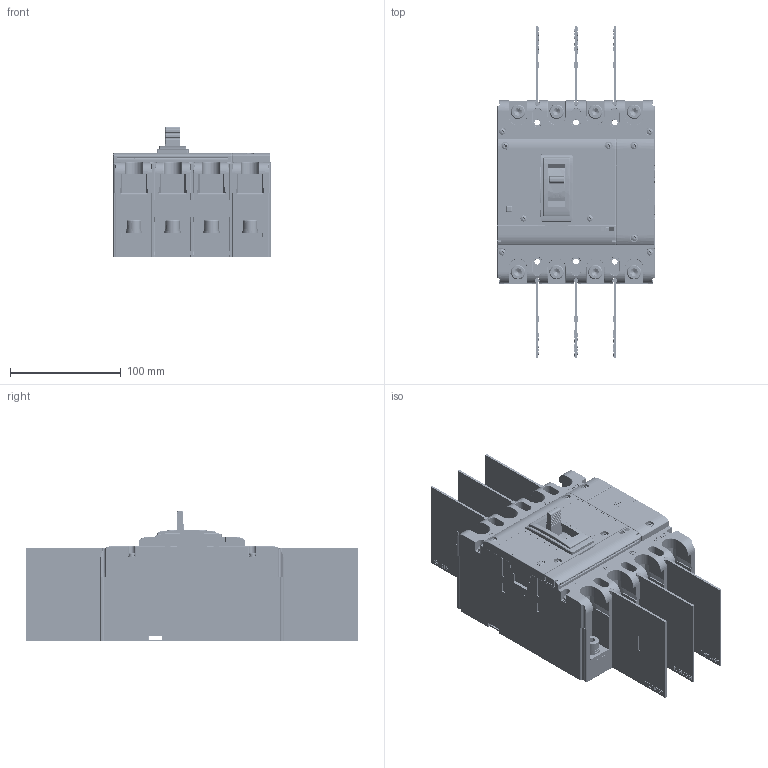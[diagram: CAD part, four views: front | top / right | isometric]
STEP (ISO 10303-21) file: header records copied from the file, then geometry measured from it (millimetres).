
FILE_DESCRIPTION (( 'STEP AP214' ), '1' );
FILE_NAME ('TGM1NE 250.320-4p.STEP', '2025-12-03T07:16:18', ( '' ), ( '' ), 'SwSTEP 2.0', 'SolidWorks 2024', '' );
FILE_SCHEMA (( 'AUTOMOTIVE_DESIGN' ));
Length unit declared in the file: millimetre
Products named in the file (4): TGM1NE 250.320-4p; TGM1NE 250.320-4p.stp; 2TZD_259_6106_7_SW0001_1.stp; 2TZD_259_6106_7_SW0001_2.stp
Assembly tree (3 placements, depth 3):
  TGM1NE 250.320-4p
    TGM1NE 250.320-4p.stp
      2TZD_259_6106_7_SW0001_1.stp
      2TZD_259_6106_7_SW0001_2.stp
Bounding box: 142 x 300 x 118.23 mm (x, y, z)
Volume: 829539.1 mm3; surface area: 489120.6 mm2
Topology: 2 solids, 2 shells, 9318 faces, 25927 edges, 16512 vertices
Faces by surface type: plane 6589, cylinder 2005, sphere 236, torus 219, bspline 137, cone 132
Entity records: 307316 total; most frequent: CARTESIAN_POINT 67574, ORIENTED_EDGE 51410, DIRECTION 48058, EDGE_CURVE 25705, LINE 20058, VECTOR 20058, VERTEX_POINT 16505, AXIS2_PLACEMENT_3D 14000
